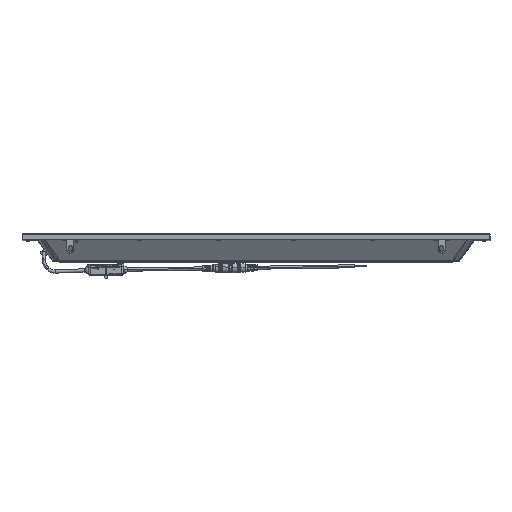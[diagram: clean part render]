
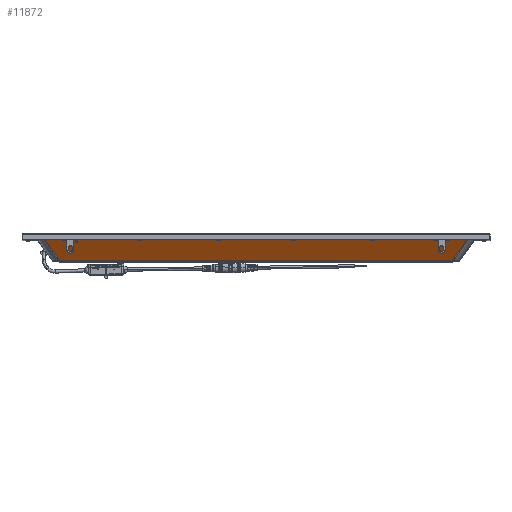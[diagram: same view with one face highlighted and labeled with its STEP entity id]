
A CAD part, top view. The second image highlights one B-rep face of the part: STEP entity #11872.
In plain terms, the highlighted planar face has unit normal (0, -0.574, 0.819).
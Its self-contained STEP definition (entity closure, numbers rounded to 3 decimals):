
#6424=PLANE('',#97281);
#11872=ADVANCED_FACE('NONE',(#18640),#6424,.T.);
#18640=FACE_OUTER_BOUND('',#24206,.T.);
#24206=EDGE_LOOP('',(#61695,#61696,#61697,#61698));
#31631=LINE('',#172167,#39499);
#31641=LINE('',#172672,#39509);
#31642=LINE('',#172674,#39510);
#31643=LINE('',#172676,#39511);
#39499=VECTOR('',#116767,1.);
#39509=VECTOR('',#116803,1.);
#39510=VECTOR('',#116804,1.);
#39511=VECTOR('',#116805,1.);
#61695=ORIENTED_EDGE('',*,*,#86490,.T.);
#61696=ORIENTED_EDGE('',*,*,#86462,.T.);
#61697=ORIENTED_EDGE('',*,*,#86491,.T.);
#61698=ORIENTED_EDGE('',*,*,#86492,.T.);
#74255=VERTEX_POINT('',#172115);
#74259=VERTEX_POINT('',#172166);
#74276=VERTEX_POINT('',#172673);
#74277=VERTEX_POINT('',#172675);
#86462=EDGE_CURVE('NONE',#74255,#74259,#31631,.T.);
#86490=EDGE_CURVE('NONE',#74276,#74255,#31641,.T.);
#86491=EDGE_CURVE('NONE',#74259,#74277,#31642,.T.);
#86492=EDGE_CURVE('NONE',#74277,#74276,#31643,.T.);
#97281=AXIS2_PLACEMENT_3D('',#172677,#116806,#116807);
#116767=DIRECTION('',(-1.,0.,0.));
#116803=DIRECTION('',(0.498,0.711,0.498));
#116804=DIRECTION('',(0.498,-0.711,-0.498));
#116805=DIRECTION('',(1.,0.,0.));
#116806=DIRECTION('',(0.,-0.574,0.819));
#116807=DIRECTION('',(0.,-0.819,-0.574));
#172115=CARTESIAN_POINT('',(282.622,-1239.338,292.452));
#172166=CARTESIAN_POINT('',(-282.622,-1239.338,292.452));
#172167=CARTESIAN_POINT('',(-293.,-1239.338,292.452));
#172672=CARTESIAN_POINT('',(140.54,-1442.252,150.37));
#172673=CARTESIAN_POINT('',(260.399,-1271.076,270.229));
#172674=CARTESIAN_POINT('',(-285.604,-1235.08,295.433));
#172675=CARTESIAN_POINT('',(-260.399,-1271.076,270.229));
#172676=CARTESIAN_POINT('',(-293.,-1271.076,270.229));
#172677=CARTESIAN_POINT('',(-293.,-1238.555,293.));
